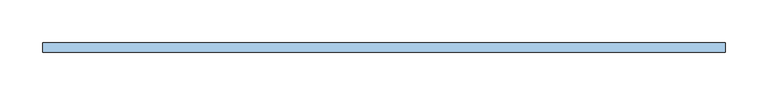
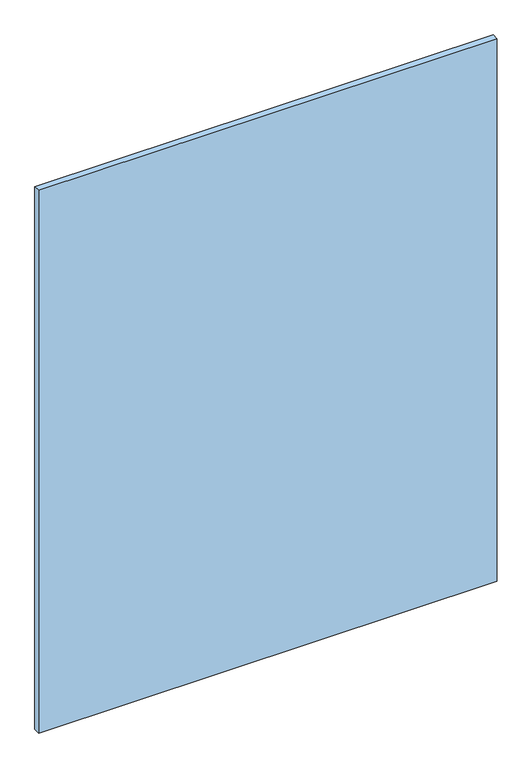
"""IFC4 building model written with IfcOpenShell, lengths in millimetres: window geometry, espejo biselado sin marco : ESP3-espejo biselado 80 x 100."""

from ifc_helpers import new_model, si_unit, origin, origin_with_axes, place, context, project, spatial, polyline, outline, extrude, source, transform, mapped, element, save


def window_e1a14afa(model_context):
    return source(origin(), model_context, "Body", "SweptSolid", [
        extrude(outline(polyline([(-400.0, 79.0), (-400.0, 90.0), (400.0, 90.0), (400.0, 79.0), (-400.0, 79.0)])), origin_with_axes(), (0.0, 0.0, 1.0), 1000.0),
    ])


if __name__ == "__main__":
    model = new_model("IFC4")
    model_context = context("Model", 3, world=origin())
    ifc_project = project(units=[si_unit("LENGTHUNIT", "METRE", prefix="MILLI")], contexts=[model_context])
    site = spatial("IfcSite", under=ifc_project)
    building = spatial("IfcBuilding", under=site)
    placement = place(None, origin())
    window_shape = window_e1a14afa(model_context)
    element("IfcWindow", 1, ObjectType="espejo biselado sin marco : ESP3-espejo biselado 80 x 100", at=placement, inside=building, context=model_context, shape_type="MappedRepresentation", body=[
        mapped(window_shape, transform((0.0, 0.0, 0.0), x_axis=(1.0, 0.0, 0.0), y_axis=(0.0, 1.0, 0.0), z_axis=(0.0, 0.0, 1.0))),
    ])
    save(model, "model.ifc")
